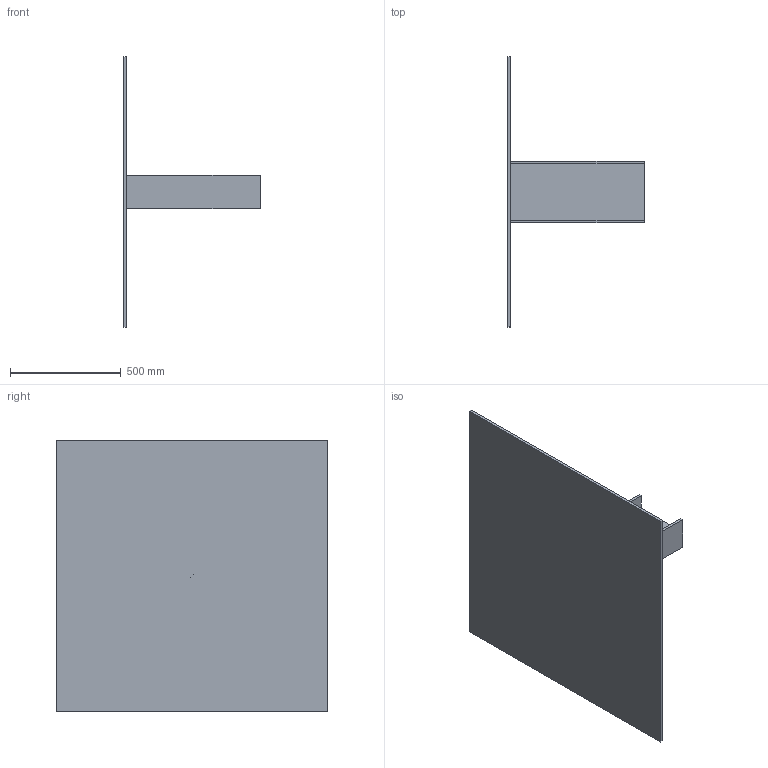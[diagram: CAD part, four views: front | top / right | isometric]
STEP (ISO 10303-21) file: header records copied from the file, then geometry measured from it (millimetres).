
FILE_DESCRIPTION(('FreeCAD Model'),'2;1');
FILE_NAME('C:/Users/vh/Desktop/test/solid.step','2015-08-08T09:28:53',( 'Author'),(''),'Open CASCADE STEP processor 6.8','FreeCAD','Unknown' );
FILE_SCHEMA(('AUTOMOTIVE_DESIGN_CC2 { 1 2 10303 214 -1 1 5 4 }'));
Length unit declared in the file: inch
Products named in the file (1): Fusion
Bounding box: 615.95 x 1219.2 x 1219.2 mm (x, y, z)
Volume: 23159018.2 mm3; surface area: 3724347.4 mm2
Topology: 1 solids, 1 shells, 19 faces, 48 edges, 32 vertices
Faces by surface type: plane 19
Entity records: 1185 total; most frequent: CARTESIAN_POINT 220, DIRECTION 160, LINE 120, VECTOR 120, ORIENTED_EDGE 96, PCURVE 96, DEFINITIONAL_REPRESENTATION 96, EDGE_CURVE 48
